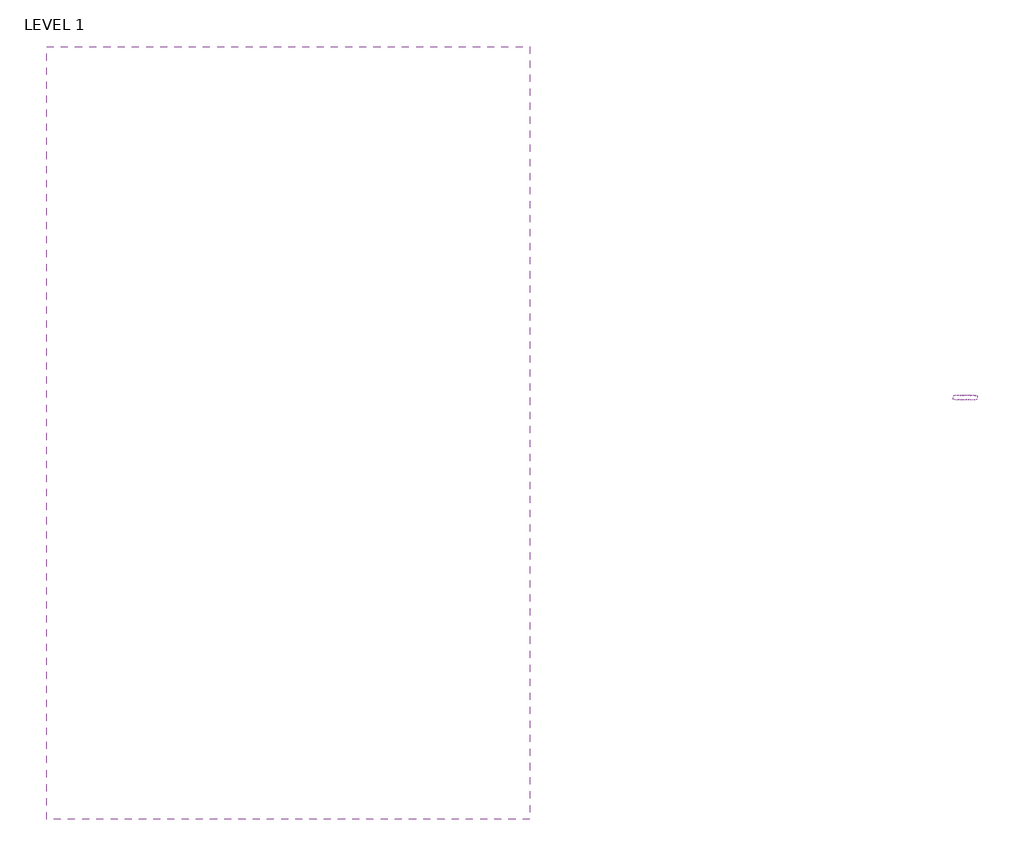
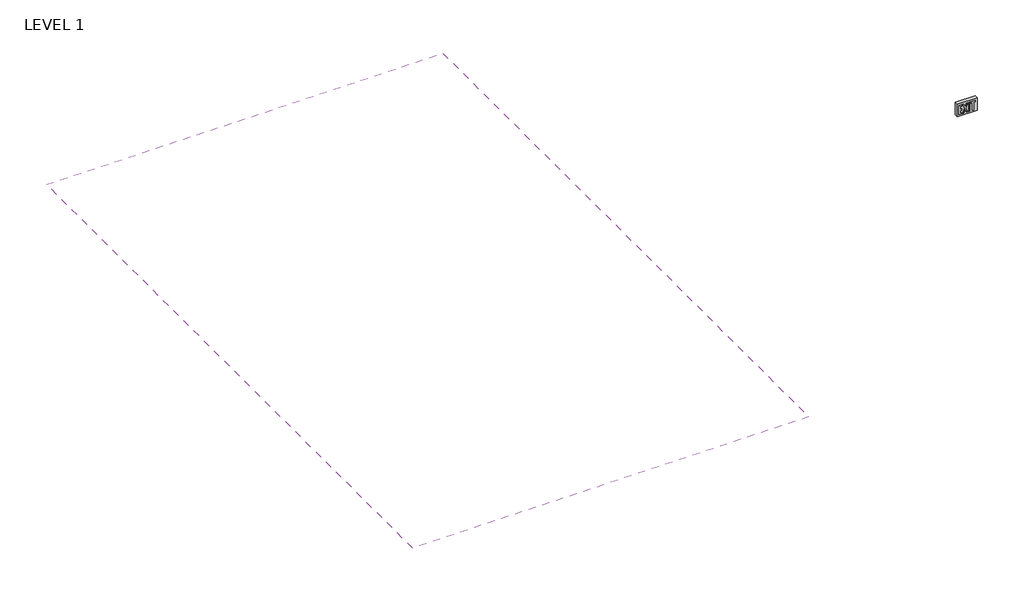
# One storey, incomplete: 1 covering, 1 light fixture.
"""IFC4 building model written with IfcOpenShell, lengths in millimetres."""

from ifc_helpers import new_model, si_unit, frame, origin, place, context, project, spatial, polyline, outline, extrude, transform, mapped, element, save
from components import double_face_c97266c6

model = new_model("IFC4")

# Units and contexts
model_context = context("Model", 3, world=origin())
ifc_project = project(units=[si_unit("LENGTHUNIT", "METRE", prefix="MILLI")], contexts=[model_context])

# Site, building, storey
site = spatial("IfcSite", under=ifc_project)
building = spatial("IfcBuilding", under=site)
storey = spatial("IfcBuildingStorey", under=building, Name="LEVEL 1", Elevation=30480.0)

# Covering
placement = place(None, origin())
element("IfcCovering", 1, ObjectType="GWB on Mtl. Stud", at=placement, inside=storey, context=model_context, shape_type="SweptSolid", body=[
    extrude(outline(polyline([(32381.0865803, 43461.0867913), (32381.0865803, 33707.4867913), (26285.0865803, 33707.4867913), (26285.0865803, 43461.0867913), (32381.0865803, 43461.0867913)])), frame((0.0, 0.0, 32918.4), z_axis=(0.0, 0.0, 1.0), x_axis=(1.0, 0.0, 0.0)), (0.0, 0.0, 1.0), 107.95),
])

# Light fixture
double_face_shape = double_face_c97266c6(model_context)
element("IfcLightFixture", 2, ObjectType="lt_fx_exit_clng : double face", at=placement, inside=storey, context=model_context, shape_type="MappedRepresentation", body=[
    mapped(double_face_shape, transform((37873.1100852, 39030.3310915, 30480.0), x_axis=(1.0, 0.0, 0.0), y_axis=(0.0, 1.0, 0.0), z_axis=(0.0, 0.0, 1.0))),
])

save(model, "model.ifc")
